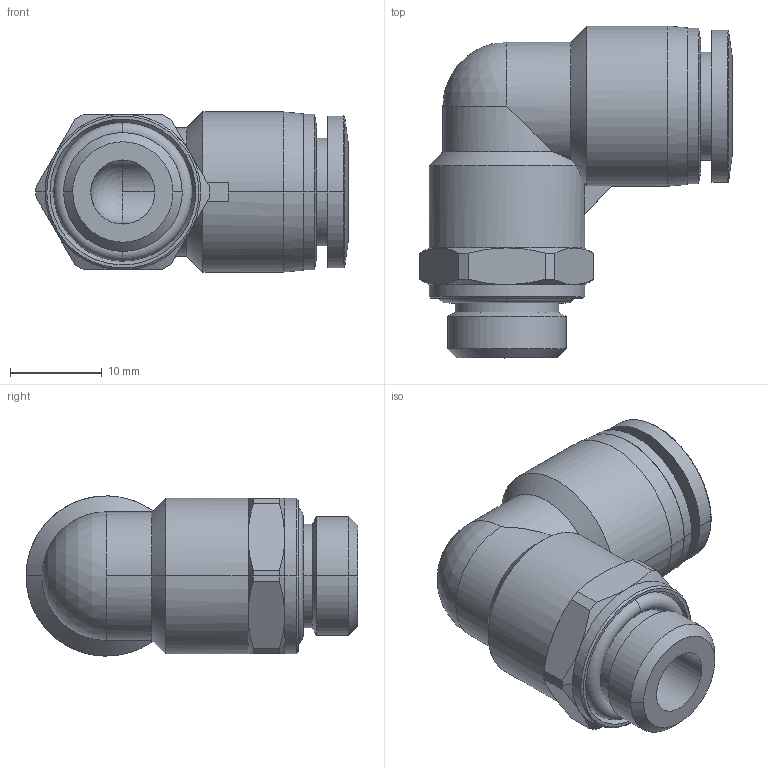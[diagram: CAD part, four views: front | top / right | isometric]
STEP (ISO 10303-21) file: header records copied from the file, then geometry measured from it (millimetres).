
FILE_DESCRIPTION (( 'STEP AP203' ), '1' );
FILE_NAME ('FL10-02.STEP', '2020-05-06T15:03:30', ( '' ), ( '' ), 'SwSTEP 2.0', 'SolidWorks 2019', '' );
FILE_SCHEMA (( 'CONFIG_CONTROL_DESIGN' ));
Length unit declared in the file: millimetre
Products named in the file (1): FL10-02
Bounding box: 34.1 x 36.25 x 17.49 mm (x, y, z)
Surface area: 4850.9 mm2 (no closed solid volume)
Topology: 0 solids, 4 shells, 95 faces, 231 edges, 143 vertices
Faces by surface type: cylinder 35, cone 32, plane 18, torus 6, bspline 2, sphere 2
Entity records: 4643 total; most frequent: CARTESIAN_POINT 2736, ORIENTED_EDGE 442, DIRECTION 245, EDGE_CURVE 229, B_SPLINE_CURVE_WITH_KNOTS 172, VERTEX_POINT 143, EDGE_LOOP 104, AXIS2_PLACEMENT_3D 100
